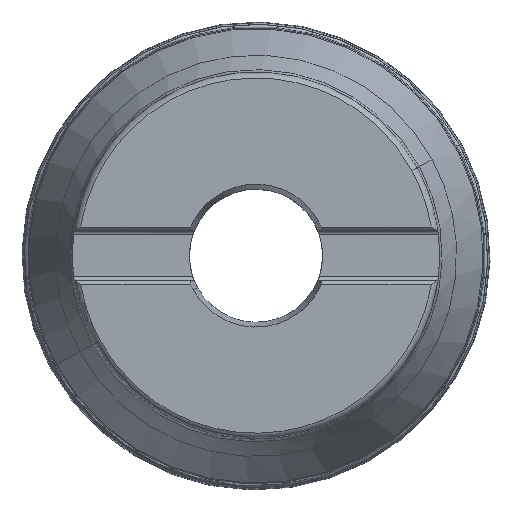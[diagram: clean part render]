
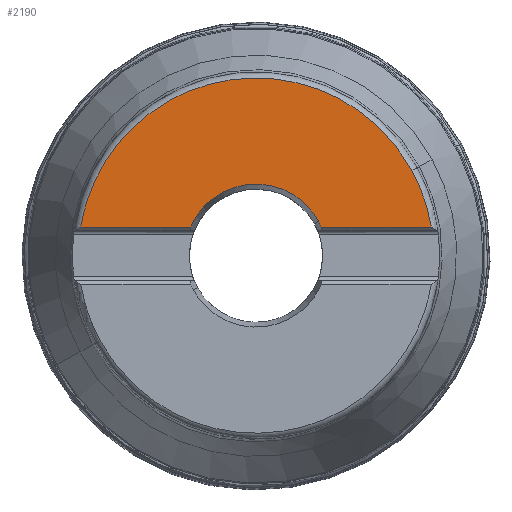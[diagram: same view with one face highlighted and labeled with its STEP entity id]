
A CAD part, top view. The second image highlights one B-rep face of the part: STEP entity #2190.
In plain terms, the highlighted planar face has unit normal (0, 0, 1).
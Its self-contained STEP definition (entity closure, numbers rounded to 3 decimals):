
#1585=AXIS2_PLACEMENT_3D('Circle Axis2P3D',#1583,#1584,$) ;
#1842=AXIS2_PLACEMENT_3D('Plane Axis2P3D',#1839,#1840,#1841) ;
#1898=AXIS2_PLACEMENT_3D('Circle Axis2P3D',#1896,#1897,$) ;
#1583=CARTESIAN_POINT('Axis2P3D Location',(0.,0.,0.)) ;
#1587=CARTESIAN_POINT('Vertex',(11.968,6.538,0.)) ;
#1589=CARTESIAN_POINT('Vertex',(12.502,5.45,0.)) ;
#1839=CARTESIAN_POINT('Axis2P3D Location',(0.,19.325,0.)) ;
#1896=CARTESIAN_POINT('Axis2P3D Location',(0.,0.,0.)) ;
#1900=CARTESIAN_POINT('Vertex',(-12.502,5.45,0.)) ;
#2114=CARTESIAN_POINT('Line Origine',(22.966,5.45,0.)) ;
#2118=CARTESIAN_POINT('Vertex',(33.43,5.45,0.)) ;
#2139=CARTESIAN_POINT('Line Origine',(-22.966,5.45,0.)) ;
#2143=CARTESIAN_POINT('Vertex',(-33.43,5.45,0.)) ;
#2147=CARTESIAN_POINT('Control Point',(33.43,5.45,0.)) ;
#2148=CARTESIAN_POINT('Control Point',(33.062,7.713,0.)) ;
#2149=CARTESIAN_POINT('Control Point',(32.501,9.944,0.)) ;
#2150=CARTESIAN_POINT('Control Point',(31.753,12.122,0.)) ;
#2151=CARTESIAN_POINT('Control Point',(30.824,14.227,0.)) ;
#2152=CARTESIAN_POINT('Control Point',(29.725,16.239,0.)) ;
#2153=CARTESIAN_POINT('Vertex',(29.725,16.239,0.)) ;
#2157=CARTESIAN_POINT('Control Point',(29.725,16.239,0.)) ;
#2158=CARTESIAN_POINT('Control Point',(28.449,18.576,0.)) ;
#2159=CARTESIAN_POINT('Control Point',(26.942,20.788,0.)) ;
#2160=CARTESIAN_POINT('Control Point',(25.222,22.844,0.)) ;
#2161=CARTESIAN_POINT('Control Point',(21.401,26.591,0.)) ;
#2162=CARTESIAN_POINT('Control Point',(16.924,29.523,0.)) ;
#2163=CARTESIAN_POINT('Control Point',(14.547,30.763,0.)) ;
#2164=CARTESIAN_POINT('Control Point',(9.582,32.761,0.)) ;
#2165=CARTESIAN_POINT('Control Point',(4.323,33.754,0.)) ;
#2166=CARTESIAN_POINT('Control Point',(1.653,33.989,0.)) ;
#2167=CARTESIAN_POINT('Control Point',(-3.699,33.932,0.)) ;
#2168=CARTESIAN_POINT('Control Point',(-8.938,32.835,0.)) ;
#2169=CARTESIAN_POINT('Control Point',(-11.494,32.029,0.)) ;
#2170=CARTESIAN_POINT('Control Point',(-16.416,29.927,0.)) ;
#2171=CARTESIAN_POINT('Control Point',(-20.834,26.906,0.)) ;
#2172=CARTESIAN_POINT('Control Point',(-22.887,25.183,0.)) ;
#2173=CARTESIAN_POINT('Control Point',(-26.628,21.355,0.)) ;
#2174=CARTESIAN_POINT('Control Point',(-29.552,16.872,0.)) ;
#2175=CARTESIAN_POINT('Control Point',(-30.789,14.494,0.)) ;
#2176=CARTESIAN_POINT('Control Point',(-32.09,11.244,0.)) ;
#2177=CARTESIAN_POINT('Control Point',(-32.961,7.868,0.)) ;
#2178=CARTESIAN_POINT('Control Point',(-33.142,7.067,0.)) ;
#2179=CARTESIAN_POINT('Control Point',(-33.298,6.26,0.)) ;
#2180=CARTESIAN_POINT('Control Point',(-33.43,5.45,0.)) ;
#1584=DIRECTION('Axis2P3D Direction',(0.,0.,1.)) ;
#1840=DIRECTION('Axis2P3D Direction',(0.,0.,-1.)) ;
#1841=DIRECTION('Axis2P3D XDirection',(-1.,-0.,-0.)) ;
#1897=DIRECTION('Axis2P3D Direction',(0.,0.,1.)) ;
#2115=DIRECTION('Vector Direction',(-1.,0.,0.)) ;
#2140=DIRECTION('Vector Direction',(-1.,0.,0.)) ;
#2116=VECTOR('Line Direction',#2115,1.) ;
#2141=VECTOR('Line Direction',#2140,1.) ;
#2183=ORIENTED_EDGE('',*,*,#2145,.F.) ;
#2184=ORIENTED_EDGE('',*,*,#1902,.T.) ;
#2185=ORIENTED_EDGE('',*,*,#1591,.T.) ;
#2186=ORIENTED_EDGE('',*,*,#2120,.F.) ;
#2187=ORIENTED_EDGE('',*,*,#2155,.T.) ;
#2188=ORIENTED_EDGE('',*,*,#2181,.T.) ;
#2190=ADVANCED_FACE('NOCUT',(#2189),#1843,.F.) ;
#2146=B_SPLINE_CURVE_WITH_KNOTS('',5,(#2147,#2148,#2149,#2150,#2151,#2152),.UNSPECIFIED.,.F.,.U.,(6,6),(1.215,17.217),.UNSPECIFIED.) ;
#2156=B_SPLINE_CURVE_WITH_KNOTS('',5,(#2157,#2158,#2159,#2160,#2161,#2162,#2163,#2164,#2165,#2166,#2167,#2168,#2169,#2170,#2171,#2172,#2173,#2174,#2175,#2176,#2177,#2178,#2179,#2180),.UNSPECIFIED.,.F.,.U.,(6,3,3,3,3,3,3,6),(0.,18.59,37.181,55.772,74.363,92.954,111.545,117.277),.UNSPECIFIED.) ;
#1586=CIRCLE('generated circle',#1585,13.638) ;
#1899=CIRCLE('generated circle',#1898,13.638) ;
#1591=EDGE_CURVE('',#1588,#1590,#1586,.F.) ;
#1902=EDGE_CURVE('',#1901,#1588,#1899,.F.) ;
#2120=EDGE_CURVE('',#2119,#1590,#2117,.T.) ;
#2145=EDGE_CURVE('',#1901,#2144,#2142,.T.) ;
#2155=EDGE_CURVE('',#2119,#2154,#2146,.T.) ;
#2181=EDGE_CURVE('',#2154,#2144,#2156,.T.) ;
#2182=EDGE_LOOP('',(#2183,#2184,#2185,#2186,#2187,#2188)) ;
#2189=FACE_OUTER_BOUND('',#2182,.T.) ;
#2117=LINE('Line',#2114,#2116) ;
#2142=LINE('Line',#2139,#2141) ;
#1843=PLANE('',#1842) ;
#1588=VERTEX_POINT('',#1587) ;
#1590=VERTEX_POINT('',#1589) ;
#1901=VERTEX_POINT('',#1900) ;
#2119=VERTEX_POINT('',#2118) ;
#2144=VERTEX_POINT('',#2143) ;
#2154=VERTEX_POINT('',#2153) ;
